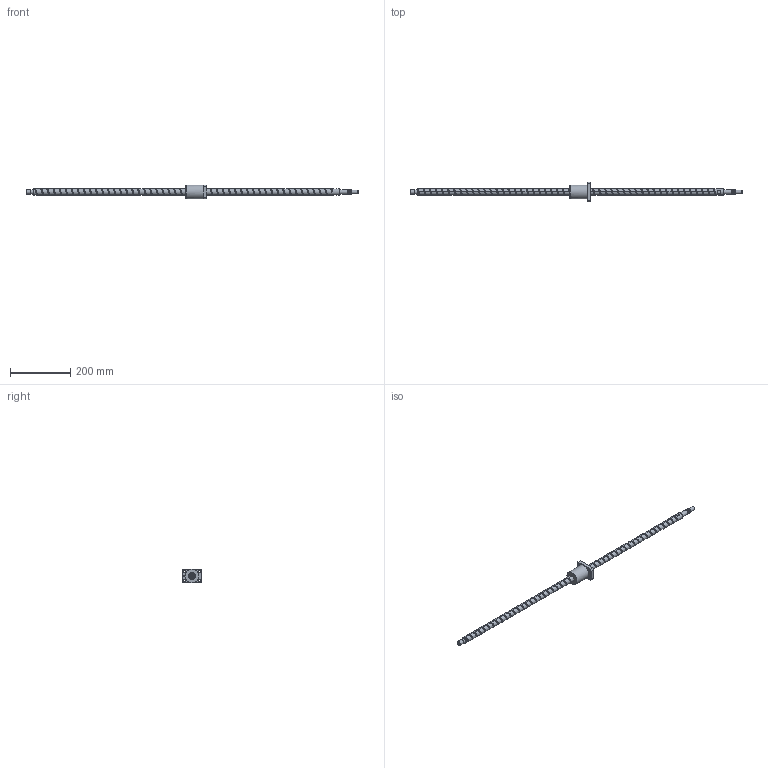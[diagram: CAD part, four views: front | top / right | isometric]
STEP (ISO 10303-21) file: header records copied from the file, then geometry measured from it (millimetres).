
FILE_DESCRIPTION (( 'STEP AP203' ), '1' );
FILE_NAME ('XSVR02020A1DGC5-1099-P1.step', '2024-06-03T06:49:09', ( '' ), ( '' ), 'SwSTEP 2.0', 'SolidWorks 2022', '' );
FILE_SCHEMA (( 'CONFIG_CONTROL_DESIGN' ));
Length unit declared in the file: millimetre
Products named in the file (1): XSVR02020A1DGC5-1099-P1
Bounding box: 1099 x 66 x 46 mm (x, y, z)
Volume: 425540.2 mm3; surface area: 93983.7 mm2
Topology: 2 solids, 2 shells, 206 faces, 568 edges, 374 vertices
Faces by surface type: cylinder 108, plane 40, bspline 29, cone 20, torus 9
Full cylindrical faces by diameter (mm): 4 x1, 5 x15, 6.6 x4, 11 x4, 12 x1, 14.3 x1, 15 x16, 20 x50, 22.1 x1, 46 x1
Entity records: 32712 total; most frequent: CARTESIAN_POINT 30094, ORIENTED_EDGE 576, DIRECTION 407, EDGE_CURVE 288, VERTEX_POINT 206, EDGE_LOOP 184, AXIS2_PLACEMENT_3D 178, FACE_OUTER_BOUND 146
